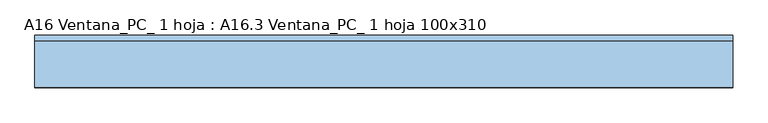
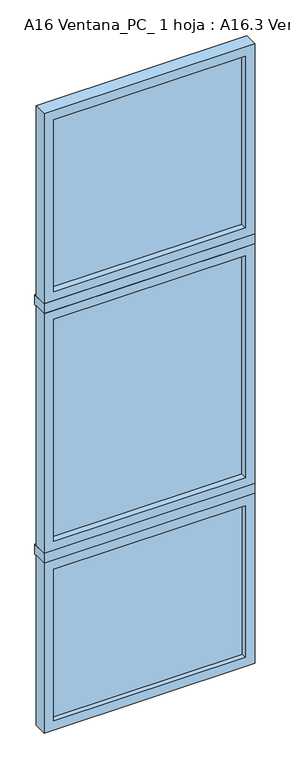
"""IFC4 building model written with IfcOpenShell, lengths in millimetres: window geometry, A16 Ventana_PC_ 1 hoja : A16.3 Ventana_PC_ 1 hoja 100x310."""

from ifc_helpers import new_model, si_unit, frame, origin, place, context, project, spatial, polyline, outline, extrude, source, transform, mapped, element, save


def a16_ventana_pc_1_hoja_a16_3_ventana_pc_1_hoja_100x310_444eb42e(model_context):
    return source(origin(), model_context, "Body", "SweptSolid", [
        extrude(outline(polyline([(455.0, 37.5), (-455.0, 37.5), (-455.0, 53.5), (455.0, 53.5), (455.0, 37.5)])), frame((0.0, 0.0, 45.0), z_axis=(0.0, 0.0, 1.0), x_axis=(1.0, 0.0, 0.0)), (0.0, 0.0, 1.0), 760.0),
        extrude(outline(polyline([(455.0, 42.5), (-455.0, 42.5), (-455.0, 48.5), (455.0, 48.5), (455.0, 42.5)])), frame((0.0, 0.0, 2195.0), z_axis=(0.0, 0.0, 1.0), x_axis=(1.0, 0.0, 0.0)), (0.0, 0.0, 1.0), 860.0),
        extrude(outline(polyline([(455.0, 42.5), (-455.0, 42.5), (-455.0, 48.5), (455.0, 48.5), (455.0, 42.5)])), frame((0.0, 0.0, 945.0), z_axis=(0.0, 0.0, 1.0), x_axis=(1.0, 0.0, 0.0)), (0.0, 0.0, 1.0), 1110.0),
        extrude(outline(polyline([(850.0, -500.0), (0.0, -500.0), (0.0, 500.0), (850.0, 500.0), (850.0, -500.0)]), holes=[polyline([(805.0, -455.0), (805.0, 455.0), (45.0, 455.0), (45.0, -455.0), (805.0, -455.0)])]), frame((0.0, 12.5, 0.0), z_axis=(0.0, 1.0, 0.0), x_axis=(0.0, 0.0, 1.0)), (0.0, 0.0, 1.0), 66.0),
        extrude(outline(polyline([(3100.0, -500.0), (2150.0, -500.0), (2150.0, 500.0), (3100.0, 500.0), (3100.0, -500.0)]), holes=[polyline([(3055.0, -455.0), (3055.0, 455.0), (2195.0, 455.0), (2195.0, -455.0), (3055.0, -455.0)])]), frame((0.0, 12.5, 0.0), z_axis=(0.0, 1.0, 0.0), x_axis=(0.0, 0.0, 1.0)), (0.0, 0.0, 1.0), 66.0),
        extrude(outline(polyline([(2100.0, -500.0), (900.0, -500.0), (900.0, 500.0), (2100.0, 500.0), (2100.0, -500.0)]), holes=[polyline([(2055.0, -455.0), (2055.0, 455.0), (945.0, 455.0), (945.0, -455.0), (2055.0, -455.0)])]), frame((0.0, 12.5, 0.0), z_axis=(0.0, 1.0, 0.0), x_axis=(0.0, 0.0, 1.0)), (0.0, 0.0, 1.0), 66.0),
        extrude(outline(polyline([(500.0, 12.5), (-500.0, 12.5), (-500.0, 87.5), (500.0, 87.5), (500.0, 12.5)])), frame((0.0, 0.0, 2100.0), z_axis=(0.0, 0.0, 1.0), x_axis=(1.0, 0.0, 0.0)), (0.0, 0.0, 1.0), 50.0),
        extrude(outline(polyline([(500.0, 12.5), (-500.0, 12.5), (-500.0, 87.5), (500.0, 87.5), (500.0, 12.5)])), frame((0.0, 0.0, 850.0), z_axis=(0.0, 0.0, 1.0), x_axis=(1.0, 0.0, 0.0)), (0.0, 0.0, 1.0), 50.0),
    ])


if __name__ == "__main__":
    model = new_model("IFC4")
    model_context = context("Model", 3, world=origin())
    ifc_project = project(units=[si_unit("LENGTHUNIT", "METRE", prefix="MILLI")], contexts=[model_context])
    site = spatial("IfcSite", under=ifc_project)
    building = spatial("IfcBuilding", under=site)
    placement = place(None, origin())
    a16_ventana_pc_1_hoja_a16_3_ventana_pc_1_hoja_100x310_shape = a16_ventana_pc_1_hoja_a16_3_ventana_pc_1_hoja_100x310_444eb42e(model_context)
    element("IfcWindow", 1, ObjectType="A16 Ventana_PC_ 1 hoja : A16.3 Ventana_PC_ 1 hoja 100x310", at=placement, inside=building, context=model_context, shape_type="MappedRepresentation", body=[
        mapped(a16_ventana_pc_1_hoja_a16_3_ventana_pc_1_hoja_100x310_shape, transform((0.0, 0.0, 0.0), x_axis=(1.0, 0.0, 0.0), y_axis=(0.0, 1.0, 0.0), z_axis=(0.0, 0.0, 1.0))),
    ])
    save(model, "model.ifc")
